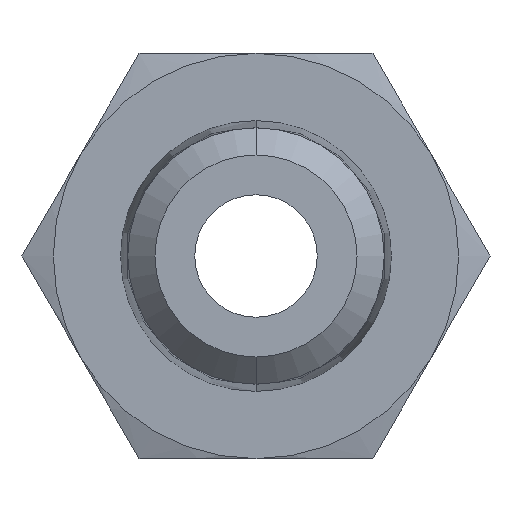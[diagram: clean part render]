
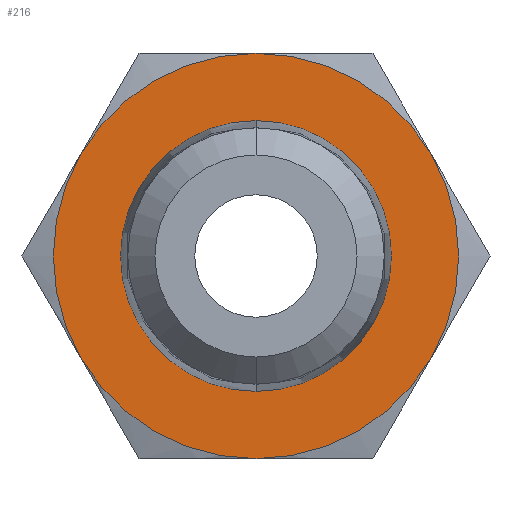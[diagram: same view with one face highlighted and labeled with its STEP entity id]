
A CAD part, left-side view. The second image highlights one B-rep face of the part: STEP entity #216.
In plain terms, the highlighted planar face has unit normal (-1, 0, 0).
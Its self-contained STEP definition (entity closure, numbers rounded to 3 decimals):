
#59 = VERTEX_POINT ( 'NONE', #646 ) ;
#71 = VERTEX_POINT ( 'NONE', #613 ) ;
#77 = VERTEX_POINT ( 'NONE', #599 ) ;
#128 = VERTEX_POINT ( 'NONE', #792 ) ;
#129 = VERTEX_POINT ( 'NONE', #794 ) ;
#139 = VERTEX_POINT ( 'NONE', #758 ) ;
#146 = EDGE_LOOP ( 'NONE', ( #203, #205, #207, #209, #211, #213 ) ) ;
#153 = EDGE_CURVE ( 'NONE', #59, #77, #894, .T. ) ;
#203 = ORIENTED_EDGE ( 'NONE', *, *, #204, .F. ) ;
#204 = EDGE_CURVE ( 'NONE', #128, #59, #923, .T. ) ;
#205 = ORIENTED_EDGE ( 'NONE', *, *, #206, .F. ) ;
#206 = EDGE_CURVE ( 'NONE', #139, #128, #920, .T. ) ;
#207 = ORIENTED_EDGE ( 'NONE', *, *, #208, .F. ) ;
#208 = EDGE_CURVE ( 'NONE', #129, #139, #915, .T. ) ;
#209 = ORIENTED_EDGE ( 'NONE', *, *, #210, .F. ) ;
#210 = EDGE_CURVE ( 'NONE', #71, #129, #910, .T. ) ;
#211 = ORIENTED_EDGE ( 'NONE', *, *, #212, .T. ) ;
#212 = EDGE_CURVE ( 'NONE', #71, #77, #1136, .T. ) ;
#213 = ORIENTED_EDGE ( 'NONE', *, *, #153, .F. ) ;
#216 = ADVANCED_FACE ( 'NONE', ( #1131, #1128 ), #1123, .F. ) ;
#217 = EDGE_LOOP ( 'NONE', ( #218, #220 ) ) ;
#218 = ORIENTED_EDGE ( 'NONE', *, *, #219, .F. ) ;
#219 = EDGE_CURVE ( 'NONE', #668, #665, #1121, .T. ) ;
#220 = ORIENTED_EDGE ( 'NONE', *, *, #667, .F. ) ;
#599 = CARTESIAN_POINT ( 'NONE',  ( 0., 6.876, 3.97 ) ) ;
#613 = CARTESIAN_POINT ( 'NONE',  ( 0., 0., 7.94 ) ) ;
#646 = CARTESIAN_POINT ( 'NONE',  ( 0., 6.876, -3.97 ) ) ;
#665 = VERTEX_POINT ( 'NONE', #1563 ) ;
#667 = EDGE_CURVE ( 'NONE', #665, #668, #1562, .T. ) ;
#668 = VERTEX_POINT ( 'NONE', #1557 ) ;
#758 = CARTESIAN_POINT ( 'NONE',  ( 0., -6.876, -3.97 ) ) ;
#792 = CARTESIAN_POINT ( 'NONE',  ( 0., 0., -7.94 ) ) ;
#794 = CARTESIAN_POINT ( 'NONE',  ( 0., -6.876, 3.97 ) ) ;
#878 = DIRECTION ( 'NONE',  ( 0., 0., -1. ) ) ;
#879 = DIRECTION ( 'NONE',  ( 1., 0., 0. ) ) ;
#892 = CARTESIAN_POINT ( 'NONE',  ( 0., 0., 0. ) ) ;
#893 = AXIS2_PLACEMENT_3D ( 'NONE', #892, #879, #878 ) ;
#894 = CIRCLE ( 'NONE', #893, 7.94 ) ;
#906 = DIRECTION ( 'NONE',  ( 0., 0., -1. ) ) ;
#907 = DIRECTION ( 'NONE',  ( 1., 0., 0. ) ) ;
#908 = CARTESIAN_POINT ( 'NONE',  ( 0., 0., 0. ) ) ;
#909 = AXIS2_PLACEMENT_3D ( 'NONE', #908, #907, #906 ) ;
#910 = CIRCLE ( 'NONE', #909, 7.94 ) ;
#911 = DIRECTION ( 'NONE',  ( 0., 0., -1. ) ) ;
#912 = DIRECTION ( 'NONE',  ( 1., 0., 0. ) ) ;
#913 = CARTESIAN_POINT ( 'NONE',  ( 0., 0., 0. ) ) ;
#914 = AXIS2_PLACEMENT_3D ( 'NONE', #913, #912, #911 ) ;
#915 = CIRCLE ( 'NONE', #914, 7.94 ) ;
#916 = DIRECTION ( 'NONE',  ( 0., 0., -1. ) ) ;
#917 = DIRECTION ( 'NONE',  ( 1., 0., 0. ) ) ;
#918 = CARTESIAN_POINT ( 'NONE',  ( 0., 0., 0. ) ) ;
#919 = AXIS2_PLACEMENT_3D ( 'NONE', #918, #917, #916 ) ;
#920 = CIRCLE ( 'NONE', #919, 7.94 ) ;
#921 = DIRECTION ( 'NONE',  ( 0., 0., -1. ) ) ;
#922 = AXIS2_PLACEMENT_3D ( 'NONE', #954, #957, #921 ) ;
#923 = CIRCLE ( 'NONE', #922, 7.94 ) ;
#954 = CARTESIAN_POINT ( 'NONE',  ( 0., 0., 0. ) ) ;
#957 = DIRECTION ( 'NONE',  ( 1., 0., 0. ) ) ;
#1114 = DIRECTION ( 'NONE',  ( 0., 0., -1. ) ) ;
#1115 = DIRECTION ( 'NONE',  ( -1., 0., 0. ) ) ;
#1116 = CARTESIAN_POINT ( 'NONE',  ( 0., 0., 0. ) ) ;
#1117 = AXIS2_PLACEMENT_3D ( 'NONE', #1116, #1115, #1114 ) ;
#1118 = DIRECTION ( 'NONE',  ( 0., 0., -1. ) ) ;
#1119 = DIRECTION ( 'NONE',  ( 1., 0., 0. ) ) ;
#1120 = AXIS2_PLACEMENT_3D ( 'NONE', #1122, #1119, #1118 ) ;
#1121 = CIRCLE ( 'NONE', #1117, 5.306 ) ;
#1122 = CARTESIAN_POINT ( 'NONE',  ( 0., 9.168, 0. ) ) ;
#1123 = PLANE ( 'NONE',  #1120 ) ;
#1128 = FACE_OUTER_BOUND ( 'NONE', #146, .T. ) ;
#1131 = FACE_BOUND ( 'NONE', #217, .T. ) ;
#1132 = DIRECTION ( 'NONE',  ( 0., 0., 1. ) ) ;
#1133 = DIRECTION ( 'NONE',  ( -1., 0., 0. ) ) ;
#1134 = CARTESIAN_POINT ( 'NONE',  ( 0., 0., 0. ) ) ;
#1135 = AXIS2_PLACEMENT_3D ( 'NONE', #1134, #1133, #1132 ) ;
#1136 = CIRCLE ( 'NONE', #1135, 7.94 ) ;
#1557 = CARTESIAN_POINT ( 'NONE',  ( 0., 0., 5.306 ) ) ;
#1558 = DIRECTION ( 'NONE',  ( 0., 0., -1. ) ) ;
#1559 = DIRECTION ( 'NONE',  ( -1., 0., 0. ) ) ;
#1560 = CARTESIAN_POINT ( 'NONE',  ( 0., 0., 0. ) ) ;
#1561 = AXIS2_PLACEMENT_3D ( 'NONE', #1560, #1559, #1558 ) ;
#1562 = CIRCLE ( 'NONE', #1561, 5.306 ) ;
#1563 = CARTESIAN_POINT ( 'NONE',  ( 0., 0., -5.306 ) ) ;
